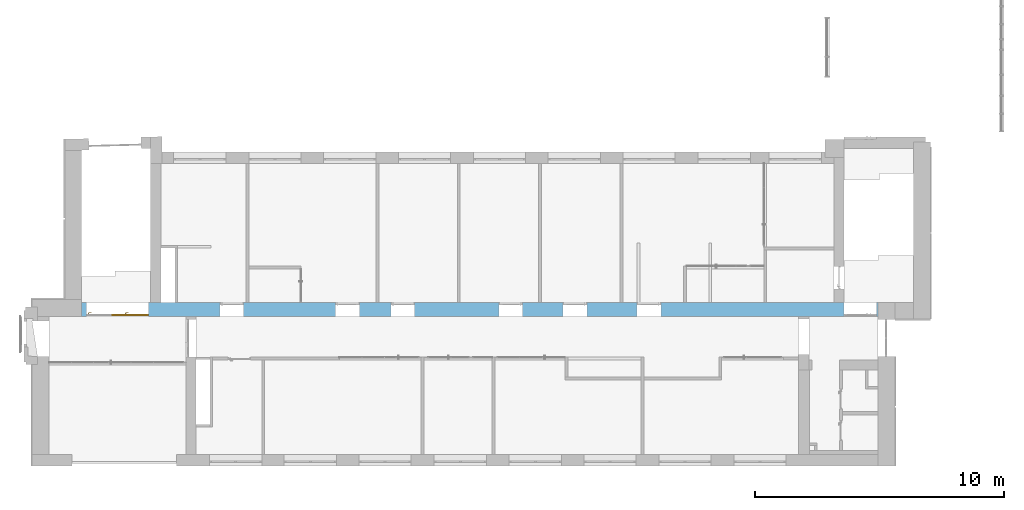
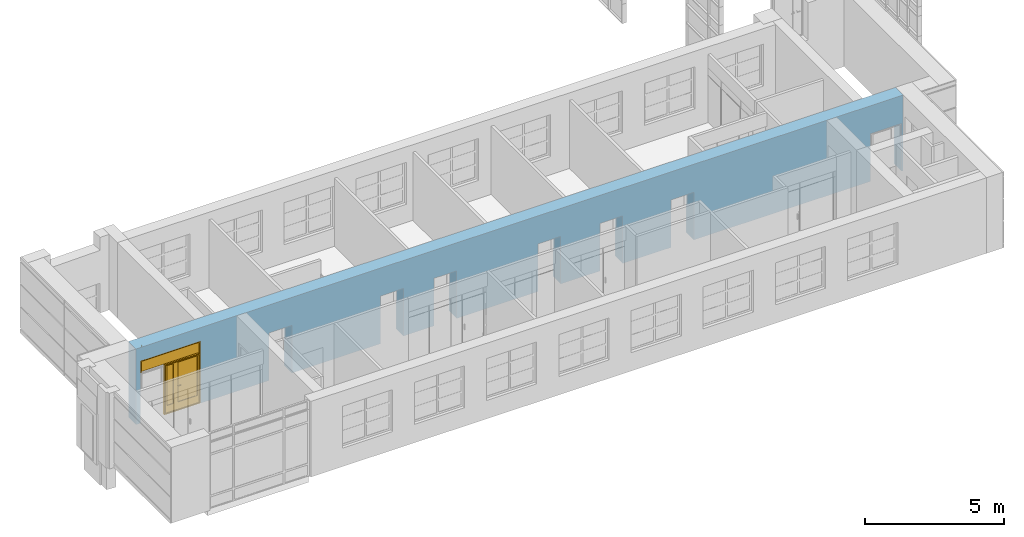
"""IFC2X3 building model written with IfcOpenShell, lengths in millimetres."""

from ifc_helpers import new_model, entity, si_unit, converted_unit, derived_unit, direction, frame, frame_2d, origin, place, context, subcontext, project, spatial, rectangle, extrude, faceted_brep, source, transform, mapped, material, material_list, layer, layer_set, layer_usage, type_object, type_shapes, element, fill, save


model = new_model("IFC2X3")

# Units and contexts
model_context = context("Model", 3, precision=0.01, world=origin(), true_north=direction((6.12303176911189e-17, 1.0)))
body_context = subcontext(model_context, "Body", "Model", "MODEL_VIEW")
ifc_project = project(units=[si_unit("LENGTHUNIT", "METRE", prefix="MILLI"), si_unit("AREAUNIT", "SQUARE_METRE"), si_unit("VOLUMEUNIT", "CUBIC_METRE"), converted_unit("PLANEANGLEUNIT", "DEGREE", entity("IfcRatioMeasure", 0.0174532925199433), si_unit("PLANEANGLEUNIT", "RADIAN"), dimensions=[0, 0, 0, 0, 0, 0, 0]), si_unit("MASSUNIT", "GRAM", prefix="KILO"), derived_unit("MASSDENSITYUNIT", [(si_unit("MASSUNIT", "GRAM", prefix="KILO"), 1), (si_unit("LENGTHUNIT", "METRE"), -3)]), si_unit("TIMEUNIT", "SECOND"), si_unit("FREQUENCYUNIT", "HERTZ"), si_unit("THERMODYNAMICTEMPERATUREUNIT", "DEGREE_CELSIUS"), derived_unit("THERMALTRANSMITTANCEUNIT", [(si_unit("MASSUNIT", "GRAM", prefix="KILO"), 1), (si_unit("THERMODYNAMICTEMPERATUREUNIT", "KELVIN"), -1), (si_unit("TIMEUNIT", "SECOND"), -3)]), derived_unit("VOLUMETRICFLOWRATEUNIT", [(si_unit("LENGTHUNIT", "METRE"), 3), (si_unit("TIMEUNIT", "SECOND"), -1)]), si_unit("ELECTRICCURRENTUNIT", "AMPERE"), si_unit("ELECTRICVOLTAGEUNIT", "VOLT"), si_unit("POWERUNIT", "WATT"), si_unit("FORCEUNIT", "NEWTON", prefix="KILO"), si_unit("ILLUMINANCEUNIT", "LUX"), si_unit("LUMINOUSFLUXUNIT", "LUMEN"), si_unit("LUMINOUSINTENSITYUNIT", "CANDELA"), derived_unit("USERDEFINED", [(si_unit("MASSUNIT", "GRAM", prefix="KILO"), -1), (si_unit("LENGTHUNIT", "METRE"), -2), (si_unit("TIMEUNIT", "SECOND"), 3), (si_unit("LUMINOUSFLUXUNIT", "LUMEN"), 1)]), derived_unit("LINEARVELOCITYUNIT", [(si_unit("LENGTHUNIT", "METRE"), 1), (si_unit("TIMEUNIT", "SECOND"), -1)]), si_unit("PRESSUREUNIT", "PASCAL"), derived_unit("USERDEFINED", [(si_unit("LENGTHUNIT", "METRE"), -2), (si_unit("MASSUNIT", "GRAM", prefix="KILO"), 1), (si_unit("TIMEUNIT", "SECOND"), -2)])], contexts=[model_context])

# Site, building, storey
site_placement = place(None, frame((-151.875543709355, 2715.0, 0.0)))
site = spatial("IfcSite", under=ifc_project, at=site_placement, Name="Surface", CompositionType="ELEMENT")
building_placement = place(site_placement, origin())
building = spatial("IfcBuilding", under=site, at=building_placement, CompositionType="ELEMENT")
storey_1_placement = place(building_placement, frame((0.0, 0.0, 6730.43000000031)))
storey_1 = spatial("IfcBuildingStorey", under=building, at=storey_1_placement, Name="3 korrus", CompositionType="ELEMENT", Elevation=6730.43000000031)

# Wall, openings, door
ifc_material_1 = material(Name="__Kips GN13_tava")
ifc_layer_1 = layer(ifc_material_1, 20.0)
ifc_material_2 = material(Name="Masonry - Brick")
ifc_layer_2 = layer(ifc_material_2, 510.0)
ifc_layer_3 = layer(ifc_material_1, 20.0)
ifc_layer_set = layer_set([ifc_layer_1, ifc_layer_2, ifc_layer_3], Name="Basic Wall:SS-1")
ifc_layer_usage = layer_usage(ifc_layer_set, "AXIS2", "POSITIVE", -275.0)
wall_type = type_object("IfcWallType", Name="Basic Wall:SS-1", PredefinedType="STANDARD", material=ifc_layer_set)
wall_placement = place(storey_1_placement, frame((1770.0, 6285.0, 0.00203353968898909)))
wall = element("IfcWallStandardCase", 1, at=wall_placement, inside=storey_1, type_object=wall_type, material=ifc_layer_usage, Name="SEIN - 002", ObjectType="Basic Wall:SS-1", context=body_context, shape_type="SweptSolid", body=[
    extrude(rectangle(XDim=31971.6162682, YDim=550.000000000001, at=frame_2d((15985.8081341, 0.0), x_axis=(-1.0, 0.0))), origin(), (0.0, 0.0, 1.0), 3329.56796646),
])
opening_1_placement = place(wall_placement, frame((30601.61626818, -275.0, 0.0)))
element("IfcOpeningElement", 2, at=opening_1_placement, cuts=wall, Name="Kahepoolsed:SU-11:1", ObjectType="Opening", context=body_context, shape_type="SweptSolid", body=[
    extrude(rectangle(XDim=2099.99999999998, YDim=1300.0, at=frame_2d((1049.99999999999, 650.0), x_axis=(1.0, 0.0))), frame((0.0, 0.0, 0.0), z_axis=(0.0, 1.0, 0.0), x_axis=(0.0, 0.0, 1.0)), (0.0, 0.0, 1.0), 550.0),
])
opening_2_placement = place(wall_placement, frame((17700.2662258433, 275.0, -0.00203353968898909)))
element("IfcOpeningElement", 3, at=opening_2_placement, cuts=wall, Name="Ühepoolsed:SU-03.:1", ObjectType="Opening", context=body_context, shape_type="SweptSolid", body=[
    extrude(rectangle(XDim=2099.99999999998, YDim=950.0, at=frame_2d((1049.99999999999, 475.0), x_axis=(1.0, 0.0))), frame((0.0, 0.0, 0.0), z_axis=(0.0, -1.0, 0.0), x_axis=(0.0, 0.0, 1.0)), (0.0, 0.0, 1.0), 550.0),
])
opening_3_placement = place(wall_placement, frame((13361.3323530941, 275.0, -0.00203353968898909)))
element("IfcOpeningElement", 4, at=opening_3_placement, cuts=wall, Name="Ühepoolsed:SU-03:1", ObjectType="Opening", context=body_context, shape_type="SweptSolid", body=[
    extrude(rectangle(XDim=2099.99999999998, YDim=949.999999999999, at=frame_2d((1049.99999999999, 475.000000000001), x_axis=(1.0, 0.0))), frame((0.0, 0.0, 0.0), z_axis=(0.0, -1.0, 0.0), x_axis=(0.0, 0.0, 1.0)), (0.0, 0.0, 1.0), 550.0),
])
opening_4_placement = place(wall_placement, frame((6492.84934805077, 275.0, -0.00203353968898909)))
element("IfcOpeningElement", 5, at=opening_4_placement, cuts=wall, Name="Ühepoolsed:SU-03:1", ObjectType="Opening", context=body_context, shape_type="SweptSolid", body=[
    extrude(rectangle(XDim=2099.99999999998, YDim=950.0, at=frame_2d((1049.99999999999, 475.0), x_axis=(1.0, 0.0))), frame((0.0, 0.0, 0.0), z_axis=(0.0, -1.0, 0.0), x_axis=(0.0, 0.0, 1.0)), (0.0, 0.0, 1.0), 550.0),
])
opening_5_placement = place(wall_placement, frame((20281.37701032, 275.0, -0.00203353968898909)))
element("IfcOpeningElement", 6, at=opening_5_placement, cuts=wall, Name="Ühepoolsed:SU-03.:1", ObjectType="Opening", context=body_context, shape_type="SweptSolid", body=[
    extrude(rectangle(XDim=2099.99999999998, YDim=950.0, at=frame_2d((1049.99999999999, 475.0), x_axis=(1.0, 0.0))), frame((0.0, 0.0, 0.0), z_axis=(0.0, -1.0, 0.0), x_axis=(0.0, 0.0, 1.0)), (0.0, 0.0, 1.0), 550.0),
])
opening_6_placement = place(wall_placement, frame((23246.99163952, 275.0, -0.00203353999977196)))
element("IfcOpeningElement", 7, at=opening_6_placement, cuts=wall, Name="Ühepoolsed:SU-03.:1", ObjectType="Opening", context=body_context, shape_type="SweptSolid", body=[
    extrude(rectangle(XDim=2099.99999999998, YDim=950.0, at=frame_2d((1049.99999999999, 475.0), x_axis=(1.0, 0.0))), frame((0.0, 0.0, 0.0), z_axis=(0.0, -1.0, 0.0), x_axis=(0.0, 0.0, 1.0)), (0.0, 0.0, 1.0), 550.0),
])
opening_7_placement = place(wall_placement, frame((11142.81982462, 275.0, -0.00203353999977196)))
element("IfcOpeningElement", 8, at=opening_7_placement, cuts=wall, Name="Ühepoolsed:SU-03:1", ObjectType="Opening", context=body_context, shape_type="SweptSolid", body=[
    extrude(rectangle(XDim=2099.99999999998, YDim=949.999999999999, at=frame_2d((1049.99999999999, 475.000000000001), x_axis=(1.0, 0.0))), frame((0.0, 0.0, 0.0), z_axis=(0.0, -1.0, 0.0), x_axis=(0.0, 0.0, 1.0)), (0.0, 0.0, 1.0), 550.0),
])
opening_8_placement = place(wall_placement, frame((188.767567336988, -275.0, 2199.99796645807)))
opening_8 = element("IfcOpeningElement", 9, at=opening_8_placement, cuts=wall, Name="Ühepoolsed:SU17_ülemine:1", ObjectType="Opening", context=body_context, shape_type="SweptSolid", body=[
    extrude(rectangle(XDim=539.999999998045, YDim=2500.0, at=frame_2d((269.999999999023, 1250.0), x_axis=(1.0, 0.0))), frame((0.0, 0.0, 0.0), z_axis=(0.0, 1.0, 0.0), x_axis=(0.0, 0.0, 1.0)), (0.0, 0.0, 1.0), 550.0),
])
opening_9_placement = place(wall_placement, frame((1188.76756733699, -275.0, -0.00203353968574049)))
opening_9 = element("IfcOpeningElement", 10, at=opening_9_placement, cuts=wall, Name="Kahepoolsed:SU-17:1", ObjectType="Opening", context=body_context, shape_type="SweptSolid", body=[
    extrude(rectangle(XDim=2199.99999999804, YDim=1500.0, at=frame_2d((1099.99999999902, 750.0), x_axis=(1.0, 0.0))), frame((0.0, 0.0, 0.0), z_axis=(0.0, 1.0, 0.0), x_axis=(0.0, 0.0, 1.0)), (0.0, 0.0, 1.0), 550.0),
])
opening_10_placement = place(wall_placement, frame((188.767567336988, -275.0, -0.00203353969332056)))
element("IfcOpeningElement", 11, at=opening_10_placement, cuts=wall, Name="Aken ukse kohal:SU-1500_aken:1", ObjectType="Opening", context=body_context, shape_type="SweptSolid", body=[
    extrude(rectangle(XDim=2199.99999999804, YDim=1000.0, at=frame_2d((1099.99999999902, 500.0), x_axis=(1.0, 0.0))), frame((0.0, 0.0, 0.0), z_axis=(0.0, 1.0, 0.0), x_axis=(0.0, 0.0, 1.0)), (0.0, 0.0, 1.0), 550.0),
])
ifc_material_3 = material(Name="_Alumiiniumprofiil - must")
ifc_material_4 = material(Name="__Uks_hele tamm")
ifc_material_5 = material(Name="EP Tavallinen lasi")
ifc_material_list_1 = material_list([ifc_material_3, ifc_material_4, ifc_material_5])
ifc_material_list_2 = material_list([ifc_material_3, ifc_material_4, ifc_material_5])
door_style_1 = type_object("IfcDoorStyle", Name="SU-17", ConstructionType="NOTDEFINED", OperationType="FOLDING_TO_RIGHT", ParameterTakesPrecedence=False, Sizeable=False, material=ifc_material_list_2)
shared_shape_1 = source(origin(), body_context, "Body", "Brep", [
    faceted_brep([(587.499999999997, 10.0, 1100.0), (587.499999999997, 48.0, 1100.0), (562.499999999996, 48.0, 1100.0), (562.499999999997, 5.0, 1100.0), (682.499999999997, 5.0, 1100.0), (682.499999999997, 10.0, 1100.0), (587.499999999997, 10.0, 1075.0), (682.499999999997, 10.0, 1075.0), (682.499999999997, 5.0, 1075.0), (562.499999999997, 5.0, 1075.0), (562.499999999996, 48.0, 1075.0), (587.499999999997, 48.0, 1075.0)], [[[0, 1, 2, 3, 4, 5]], [[6, 7, 8, 9, 10, 11]], [[1, 0, 6, 11]], [[2, 1, 11, 10]], [[3, 2, 10, 9]], [[4, 3, 9, 8]], [[5, 4, 8, 7]], [[0, 5, 7, 6]]]),
    faceted_brep([(600.0, 48.0, 1125.0), (600.0, 50.0, 1125.0), (550.0, 50.0, 1125.0), (550.0, 48.0, 1125.0), (600.0, 48.0, 1005.0), (550.0, 48.0, 1005.0), (550.0, 50.0, 1005.0), (600.0, 50.0, 1005.0)], [[[0, 1, 2, 3]], [[4, 5, 6, 7]], [[1, 0, 4, 7]], [[2, 1, 7, 6]], [[3, 2, 6, 5]], [[0, 3, 5, 4]]]),
    faceted_brep([(587.499999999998, 140.0, 1100.0), (682.499999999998, 140.0, 1100.0), (682.499999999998, 145.0, 1100.0), (562.499999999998, 145.0, 1100.0), (562.499999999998, 102.0, 1100.0), (587.499999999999, 102.0, 1100.0), (587.499999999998, 140.0, 1075.0), (587.499999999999, 102.0, 1075.0), (562.499999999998, 102.0, 1075.0), (562.499999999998, 145.0, 1075.0), (682.499999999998, 145.0, 1075.0), (682.499999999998, 140.0, 1075.0)], [[[0, 1, 2, 3, 4, 5]], [[6, 7, 8, 9, 10, 11]], [[5, 7, 6, 0]], [[4, 8, 7, 5]], [[3, 9, 8, 4]], [[2, 10, 9, 3]], [[1, 11, 10, 2]], [[0, 6, 11, 1]]]),
    faceted_brep([(600.0, 102.0, 1125.0), (550.0, 102.0, 1125.0), (550.0, 100.0, 1125.0), (600.0, 100.0, 1125.0), (600.0, 102.0, 1005.0), (600.0, 100.0, 1005.0), (550.0, 100.0, 1005.0), (550.0, 102.0, 1005.0)], [[[0, 1, 2, 3]], [[4, 5, 6, 7]], [[3, 5, 4, 0]], [[2, 6, 5, 3]], [[1, 7, 6, 2]], [[0, 4, 7, 1]]]),
    faceted_brep([(1460.0, 10.0, 30.0), (1460.0, 10.0, 0.0), (1460.0, 50.0, 0.0), (1460.0, 50.0, 20.0), (1460.0, 50.0, 30.0), (40.0, 10.0, 30.0), (40.0, 50.0, 30.0), (40.0, 50.0, 20.0), (40.0, 50.0, 0.0), (40.0, 10.0, 0.0), (25.0, 50.0, 0.0), (25.0, 100.0, 0.0), (1475.0, 100.0, 0.0), (1475.0, 50.0, 0.0), (1475.0, 100.0, 20.0), (1475.0, 50.0, 20.0), (25.0, 100.0, 20.0), (25.0, 50.0, 20.0)], [[[0, 1, 2, 3, 4]], [[5, 6, 7, 8, 9]], [[1, 0, 5, 9]], [[2, 1, 9, 8, 10, 11, 12, 13]], [[6, 4, 3, 7]], [[0, 4, 6, 5]], [[14, 15, 13, 12]], [[16, 11, 10, 17]], [[15, 14, 16, 17, 7, 3]], [[13, 15, 3, 2]], [[14, 12, 11, 16]], [[17, 10, 8, 7]]]),
    faceted_brep([(1500.0, 10.0, 0.0), (1460.0, 10.0, 0.0), (1460.0, 50.0, 0.0), (1475.0, 50.0, 0.0), (1475.0, 100.0, 0.0), (1500.0, 100.0, 0.0), (1500.0, 10.0, 2200.0), (0.0, 10.0, 2200.0), (0.0, 10.0, 0.0), (40.0, 10.0, 0.0), (40.0, 10.0, 2160.0), (1460.0, 10.0, 2160.0), (1460.0, 50.0, 2160.0), (40.0, 50.0, 2160.0), (40.0, 50.0, 0.0), (25.0, 50.0, 0.0), (25.0, 50.0, 2175.0), (1475.0, 50.0, 2175.0), (1475.0, 100.0, 2175.0), (25.0, 100.0, 2175.0), (25.0, 100.0, 0.0), (0.0, 100.0, 0.0), (0.0, 100.0, 2200.0), (1500.0, 100.0, 2200.0)], [[[0, 1, 2, 3, 4, 5]], [[1, 0, 6, 7, 8, 9, 10, 11]], [[2, 1, 11, 12]], [[3, 2, 12, 13, 14, 15, 16, 17]], [[4, 3, 17, 18]], [[5, 4, 18, 19, 20, 21, 22, 23]], [[0, 5, 23, 6]], [[8, 7, 22, 21]], [[9, 8, 21, 20, 15, 14]], [[10, 9, 14, 13]], [[16, 15, 20, 19]], [[11, 10, 13, 12]], [[17, 16, 19, 18]], [[7, 6, 23, 22]]]),
    faceted_brep([(125.0, 65.0, 350.0), (400.0, 65.0, 350.0), (400.0, 65.0, 2100.0), (125.0, 65.0, 2100.0), (125.0, 85.0, 350.0), (125.0, 85.0, 2100.0), (400.0, 85.0, 2100.0), (400.0, 85.0, 350.0)], [[[0, 1, 2, 3]], [[4, 5, 6, 7]], [[1, 0, 4, 7]], [[2, 1, 7, 6]], [[3, 2, 6, 5]], [[0, 3, 5, 4]]]),
    faceted_brep([(600.0, 65.0, 350.0), (1400.0, 65.0, 350.0), (1400.0, 65.0, 2100.0), (600.0, 65.0, 2100.0), (600.0, 85.0, 350.0), (600.0, 85.0, 2100.0), (1400.0, 85.0, 2100.0), (1400.0, 85.0, 350.0)], [[[0, 1, 2, 3]], [[4, 5, 6, 7]], [[1, 0, 4, 7]], [[2, 1, 7, 6]], [[3, 2, 6, 5]], [[0, 3, 5, 4]]]),
    faceted_brep([(500.0, 50.0, 2175.0), (25.0, 50.0, 2175.0), (25.0, 50.0, 20.0), (500.0, 50.0, 20.0), (125.0, 50.0, 350.0), (125.0, 50.0, 2100.0), (400.0, 50.0, 2100.0), (400.0, 50.0, 350.0), (500.0, 100.0, 2175.0), (500.0, 100.0, 20.0), (25.0, 100.0, 20.0), (25.0, 100.0, 2175.0), (125.0, 100.0, 2100.0), (125.0, 100.0, 350.0), (400.0, 100.0, 350.0), (400.0, 100.0, 2100.0)], [[[0, 1, 2, 3], [4, 5, 6, 7]], [[8, 9, 10, 11], [12, 13, 14, 15]], [[1, 0, 8, 11]], [[2, 1, 11, 10]], [[3, 2, 10, 9]], [[0, 3, 9, 8]], [[12, 5, 4, 13]], [[13, 4, 7, 14]], [[14, 7, 6, 15]], [[5, 12, 15, 6]]]),
    faceted_brep([(500.0, 50.0, 2175.0), (500.0, 50.0, 20.0), (1475.0, 50.0, 20.0), (1475.0, 50.0, 2175.0), (600.0, 50.0, 350.0), (600.0, 50.0, 2100.0), (1400.0, 50.0, 2100.0), (1400.0, 50.0, 350.0), (500.0, 100.0, 2175.0), (1475.0, 100.0, 2175.0), (1475.0, 100.0, 20.0), (500.0, 100.0, 20.0), (600.0, 100.0, 2100.0), (600.0, 100.0, 350.0), (1400.0, 100.0, 350.0), (1400.0, 100.0, 2100.0)], [[[0, 1, 2, 3], [4, 5, 6, 7]], [[8, 9, 10, 11], [12, 13, 14, 15]], [[1, 0, 8, 11]], [[2, 1, 11, 10]], [[3, 2, 10, 9]], [[0, 3, 9, 8]], [[12, 5, 4, 13]], [[13, 4, 7, 14]], [[14, 7, 6, 15]], [[5, 12, 15, 6]]]),
])
type_shapes(door_style_1, [shared_shape_1])
door_1_placement = place(opening_9_placement, origin())
door_1 = element("IfcDoor", 12, at=door_1_placement, inside=storey_1, type_object=door_style_1, material=ifc_material_list_1, Name="Kahepoolsed:SU-17", ObjectType="SU-17", OverallHeight=2199.99999999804, OverallWidth=1500.0, context=body_context, shape_type="MappedRepresentation", body=[
    mapped(shared_shape_1, transform((0.0, 0.0, 0.0), scale=1.0)),
])
fill(opening_9, door_1)

# Storey
storey_2_placement = place(building_placement, frame((0.0, 0.0, 7670.0)))
storey_2 = spatial("IfcBuildingStorey", under=building, at=storey_2_placement, Name="uus 3 korrus", CompositionType="ELEMENT", Elevation=7670.00000000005)

# Door
ifc_material_list_3 = material_list([ifc_material_3, ifc_material_4])
ifc_material_list_4 = material_list([ifc_material_3, ifc_material_4])
door_style_2 = type_object("IfcDoorStyle", Name="SU17_ülemine", ConstructionType="NOTDEFINED", OperationType="SINGLE_SWING_RIGHT", ParameterTakesPrecedence=False, Sizeable=False, material=ifc_material_list_4)
shared_shape_2 = source(origin(), body_context, "Body", "Brep", [
    faceted_brep([(100.0, 10.0, 1112.5), (100.0, 48.0, 1112.5), (75.0, 48.0, 1112.5), (75.0, 5.0, 1112.5), (195.0, 5.0, 1112.5), (195.0, 10.0, 1112.5), (100.0, 10.0, 1087.5), (195.0, 10.0, 1087.5), (195.0, 5.0, 1087.5), (75.0, 5.0, 1087.5), (75.0, 48.0, 1087.5), (100.0, 48.0, 1087.5)], [[[0, 1, 2, 3, 4, 5]], [[6, 7, 8, 9, 10, 11]], [[1, 0, 6, 11]], [[2, 1, 11, 10]], [[3, 2, 10, 9]], [[4, 3, 9, 8]], [[5, 4, 8, 7]], [[0, 5, 7, 6]]]),
    faceted_brep([(112.500000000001, 48.0, 1137.5), (112.500000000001, 50.0, 1137.5), (62.5000000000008, 50.0, 1137.5), (62.5000000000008, 48.0, 1137.5), (112.500000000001, 48.0, 1017.5), (62.5000000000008, 48.0, 1017.5), (62.5000000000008, 50.0, 1017.5), (112.500000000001, 50.0, 1017.5)], [[[0, 1, 2, 3]], [[4, 5, 6, 7]], [[1, 0, 4, 7]], [[2, 1, 7, 6]], [[3, 2, 6, 5]], [[0, 3, 5, 4]]]),
    faceted_brep([(100.0, 140.0, 1112.5), (195.0, 140.0, 1112.5), (195.0, 145.0, 1112.5), (75.0, 145.0, 1112.5), (75.0, 102.0, 1112.5), (100.0, 102.0, 1112.5), (100.0, 140.0, 1087.5), (100.0, 102.0, 1087.5), (75.0, 102.0, 1087.5), (75.0, 145.0, 1087.5), (195.0, 145.0, 1087.5), (195.0, 140.0, 1087.5)], [[[0, 1, 2, 3, 4, 5]], [[6, 7, 8, 9, 10, 11]], [[5, 7, 6, 0]], [[4, 8, 7, 5]], [[3, 9, 8, 4]], [[2, 10, 9, 3]], [[1, 11, 10, 2]], [[0, 6, 11, 1]]]),
    faceted_brep([(112.500000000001, 102.0, 1137.5), (62.5000000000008, 102.0, 1137.5), (62.5000000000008, 100.0, 1137.5), (112.500000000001, 100.0, 1137.5), (112.500000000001, 102.0, 1017.5), (112.500000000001, 100.0, 1017.5), (62.5000000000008, 100.0, 1017.5), (62.5000000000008, 102.0, 1017.5)], [[[0, 1, 2, 3]], [[4, 5, 6, 7]], [[3, 5, 4, 0]], [[2, 6, 5, 3]], [[1, 7, 6, 2]], [[0, 4, 7, 1]]]),
    faceted_brep([(2500.0, 10.0, 0.0), (2460.0, 10.0, 0.0), (2460.0, 50.0, 0.0), (2475.0, 50.0, 0.0), (2475.0, 100.0, 0.0), (2500.0, 100.0, 0.0), (2500.0, 10.0, 540.0), (0.0, 10.0, 540.0), (0.0, 10.0, 0.0), (40.0, 10.0, 0.0), (40.0, 10.0, 500.0), (2460.0, 10.0, 500.0), (2460.0, 50.0, 500.0), (40.0, 50.0, 500.0), (40.0, 50.0, 0.0), (25.0, 50.0, 0.0), (25.0, 50.0, 515.0), (2475.0, 50.0, 515.0), (2475.0, 100.0, 515.0), (25.0, 100.0, 515.0), (25.0, 100.0, 0.0), (0.0, 100.0, 0.0), (0.0, 100.0, 540.0), (2500.0, 100.0, 540.0)], [[[0, 1, 2, 3, 4, 5]], [[1, 0, 6, 7, 8, 9, 10, 11]], [[2, 1, 11, 12]], [[3, 2, 12, 13, 14, 15, 16, 17]], [[4, 3, 17, 18]], [[5, 4, 18, 19, 20, 21, 22, 23]], [[0, 5, 23, 6]], [[8, 7, 22, 21]], [[9, 8, 21, 20, 15, 14]], [[10, 9, 14, 13]], [[16, 15, 20, 19]], [[11, 10, 13, 12]], [[17, 16, 19, 18]], [[7, 6, 23, 22]]]),
    faceted_brep([(25.0, 50.0, 515.0), (25.0, 50.0, 20.0), (2475.0, 50.0, 20.0), (2475.0, 50.0, 515.0), (25.0, 100.0, 515.0), (2475.0, 100.0, 515.0), (2475.0, 100.0, 20.0), (25.0, 100.0, 20.0)], [[[0, 1, 2, 3]], [[4, 5, 6, 7]], [[1, 0, 4, 7]], [[2, 1, 7, 6]], [[3, 2, 6, 5]], [[0, 3, 5, 4]]]),
])
type_shapes(door_style_2, [shared_shape_2])
door_2_placement = place(opening_8_placement, origin())
door_2 = element("IfcDoor", 13, at=door_2_placement, inside=storey_2, type_object=door_style_2, material=ifc_material_list_3, Name="Ühepoolsed:SU17_ülemine", ObjectType="SU17_ülemine", OverallHeight=539.999999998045, OverallWidth=2500.0, context=body_context, shape_type="MappedRepresentation", body=[
    mapped(shared_shape_2, transform((0.0, 0.0, 0.0), scale=1.0)),
])

fill(opening_8, door_2)

save(model, "model.ifc")
